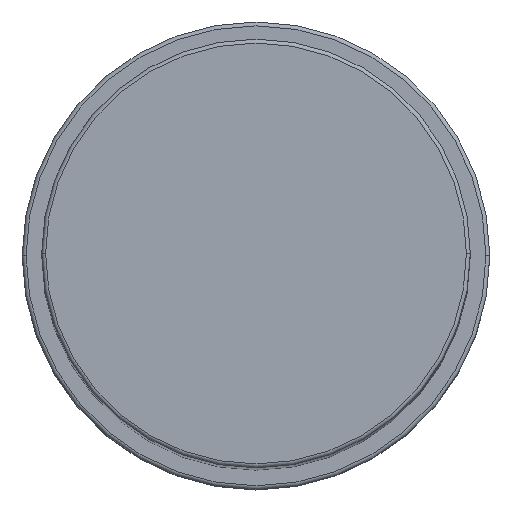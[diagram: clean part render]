
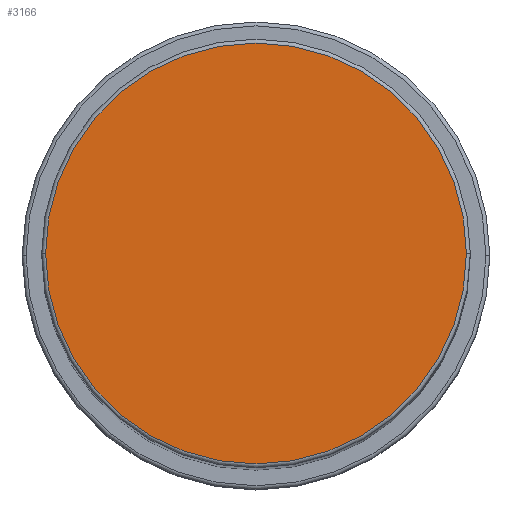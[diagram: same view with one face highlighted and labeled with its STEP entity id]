
A CAD part, top view. The second image highlights one B-rep face of the part: STEP entity #3166.
In plain terms, the highlighted planar face has unit normal (0, 0, 1).
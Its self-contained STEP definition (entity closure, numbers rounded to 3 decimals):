
#245 = DIRECTION ( 'NONE',  ( 1., 0., 0. ) ) ;
#451 = ORIENTED_EDGE ( 'NONE', *, *, #2417, .T. ) ;
#721 = AXIS2_PLACEMENT_3D ( 'NONE', #3890, #2662, #1954 ) ;
#988 = CARTESIAN_POINT ( 'NONE',  ( 0., 0., 183. ) ) ;
#1200 = CARTESIAN_POINT ( 'NONE',  ( 0., 0., 183. ) ) ;
#1461 = ORIENTED_EDGE ( 'NONE', *, *, #4700, .T. ) ;
#1954 = DIRECTION ( 'NONE',  ( 1., 0., 0. ) ) ;
#2048 = DIRECTION ( 'NONE',  ( 0., 0., 1. ) ) ;
#2091 = CIRCLE ( 'NONE', #721, 27. ) ;
#2106 = CARTESIAN_POINT ( 'NONE',  ( 27., 0., 183. ) ) ;
#2417 = EDGE_CURVE ( 'NONE', #4898, #4089, #2091, .T. ) ;
#2662 = DIRECTION ( 'NONE',  ( 0., 0., 1. ) ) ;
#3108 = PLANE ( 'NONE',  #3360 ) ;
#3133 = DIRECTION ( 'NONE',  ( 1., 0., 0. ) ) ;
#3166 = ADVANCED_FACE ( 'NONE', ( #3760 ), #3108, .T. ) ;
#3295 = DIRECTION ( 'NONE',  ( 0., 0., 1. ) ) ;
#3360 = AXIS2_PLACEMENT_3D ( 'NONE', #1200, #2048, #3133 ) ;
#3760 = FACE_OUTER_BOUND ( 'NONE', #4188, .T. ) ;
#3808 = CIRCLE ( 'NONE', #4124, 27. ) ;
#3890 = CARTESIAN_POINT ( 'NONE',  ( 0., 0., 183. ) ) ;
#4089 = VERTEX_POINT ( 'NONE', #2106 ) ;
#4124 = AXIS2_PLACEMENT_3D ( 'NONE', #988, #3295, #245 ) ;
#4188 = EDGE_LOOP ( 'NONE', ( #1461, #451 ) ) ;
#4357 = CARTESIAN_POINT ( 'NONE',  ( -27., 0., 183. ) ) ;
#4700 = EDGE_CURVE ( 'NONE', #4089, #4898, #3808, .T. ) ;
#4898 = VERTEX_POINT ( 'NONE', #4357 ) ;
